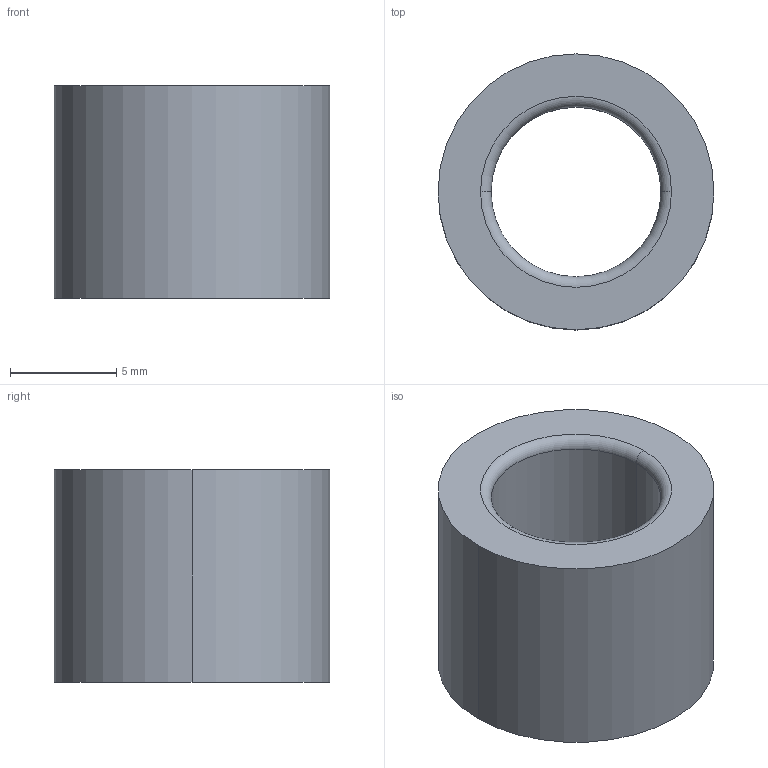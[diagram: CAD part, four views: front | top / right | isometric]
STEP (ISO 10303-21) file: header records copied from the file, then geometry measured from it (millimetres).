
FILE_DESCRIPTION(/* description */ (''),/* implementation_level */ '2;1');
FILE_NAME(/* name */ '3d_sgbz8-10_00296_r00.stp',/* time_stamp */ '2011-01-10T14:11:11+09:00',/* author */ ('MISUMI'),/* organization */ (''),/* preprocessor_version */ 'ST-DEVELOPER v11',/* originating_system */ 'UGS - NX 5.0',/* authorisation */ '');
FILE_SCHEMA (('CONFIG_CONTROL_DESIGN'));
Length unit declared in the file: millimetre
Products named in the file (1): 3d_sgbz8-10_00296_r00
Bounding box: 13 x 13 x 10 mm (x, y, z)
Volume: 821.9 mm3; surface area: 814.1 mm2
Topology: 1 solids, 1 shells, 10 faces, 20 edges, 12 vertices
Faces by surface type: cylinder 4, torus 4, plane 2
Entity records: 358 total; most frequent: DIRECTION 58, CARTESIAN_POINT 43, ORIENTED_EDGE 40, AXIS2_PLACEMENT_3D 27, EDGE_CURVE 20, CIRCLE 16, EDGE_LOOP 12, VERTEX_POINT 12
